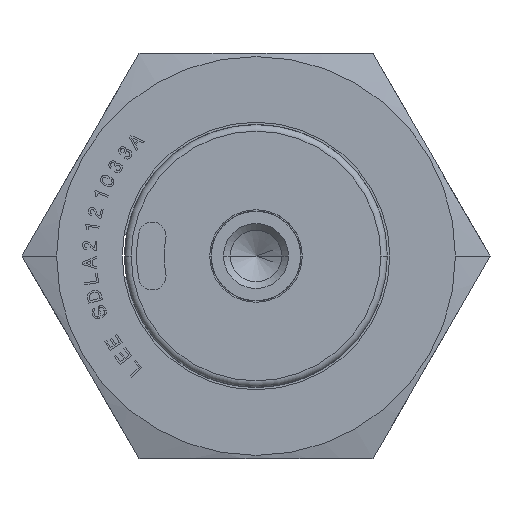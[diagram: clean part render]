
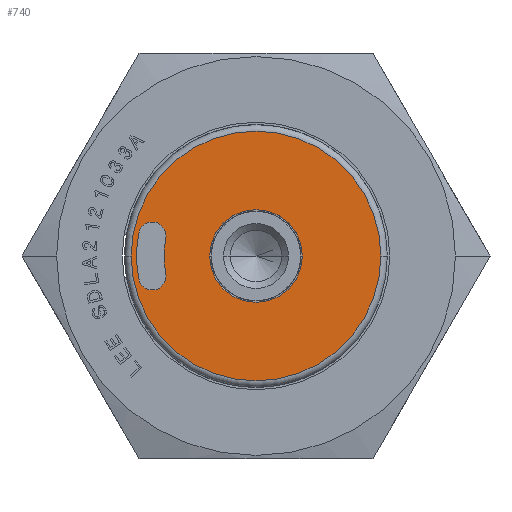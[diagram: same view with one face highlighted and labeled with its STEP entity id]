
A CAD part, left-side view. The second image highlights one B-rep face of the part: STEP entity #740.
In plain terms, the highlighted planar face has unit normal (-1, 0, 0).
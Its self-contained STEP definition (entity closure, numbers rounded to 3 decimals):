
#10=CARTESIAN_POINT('',(-29.261,6.701,0.));
#20=DIRECTION('',(1.,0.,0.));
#30=DIRECTION('',(0.,-1.,0.));
#40=AXIS2_PLACEMENT_3D('',#10,#20,#30);
#50=PLANE('',#40);
#60=CARTESIAN_POINT('',(-29.261,0.,0.));
#70=DIRECTION('',(1.,0.,0.));
#80=DIRECTION('',(0.,1.,0.));
#90=AXIS2_PLACEMENT_3D('',#60,#70,#80);
#100=CIRCLE('',#90,3.623);
#110=CARTESIAN_POINT('',(-29.261,3.623,0.));
#120=VERTEX_POINT('',#110);
#130=CARTESIAN_POINT('',(-29.261,-3.623,
0.));
#140=VERTEX_POINT('',#130);
#150=EDGE_CURVE('',#120,#140,#100,.T.);
#160=ORIENTED_EDGE('',*,*,#150,.T.);
#170=EDGE_CURVE('',#140,#120,#100,.T.);
#180=ORIENTED_EDGE('',*,*,#170,.T.);
#190=EDGE_LOOP('',(#180,#160));
#200=FACE_BOUND('',#190,.T.);
#210=CARTESIAN_POINT('',(-29.261,0.,0.));
#220=DIRECTION('',(-1.,0.,0.));
#230=DIRECTION('',(0.,0.,1.));
#240=AXIS2_PLACEMENT_3D('',#210,#220,#230);
#250=CIRCLE('',#240,7.201);
#260=CARTESIAN_POINT('',(-29.261,7.069,1.374));
#270=VERTEX_POINT('',#260);
#280=CARTESIAN_POINT('',(-29.261,7.069,-1.374));
#290=VERTEX_POINT('',#280);
#300=EDGE_CURVE('',#270,#290,#250,.T.);
#310=ORIENTED_EDGE('',*,*,#300,.T.);
#320=CARTESIAN_POINT('',(-29.261,8.128,1.58));
#330=DIRECTION('',(-1.,0.,0.));
#340=DIRECTION('',(0.,0.,1.));
#350=AXIS2_PLACEMENT_3D('',#320,#330,#340);
#360=CIRCLE('',#350,1.08);
#370=CARTESIAN_POINT('',(-29.261,9.188,1.787));
#380=VERTEX_POINT('',#370);
#390=EDGE_CURVE('',#270,#380,#360,.T.);
#400=ORIENTED_EDGE('',*,*,#390,.F.);
#410=CARTESIAN_POINT('',(-29.261,0.,0.));
#420=DIRECTION('',(-1.,0.,0.));
#430=DIRECTION('',(0.,0.,1.));
#440=AXIS2_PLACEMENT_3D('',#410,#420,#430);
#450=CIRCLE('',#440,9.36);
#460=CARTESIAN_POINT('',(-29.261,9.188,-1.787));
#470=VERTEX_POINT('',#460);
#480=EDGE_CURVE('',#380,#470,#450,.T.);
#490=ORIENTED_EDGE('',*,*,#480,.F.);
#500=CARTESIAN_POINT('',(-29.261,8.128,-1.583));
#510=DIRECTION('',(-1.,0.,0.));
#520=DIRECTION('',(0.,0.,1.));
#530=AXIS2_PLACEMENT_3D('',#500,#510,#520);
#540=CIRCLE('',#530,1.08);
#550=EDGE_CURVE('',#470,#290,#540,.T.);
#560=ORIENTED_EDGE('',*,*,#550,.F.);
#570=EDGE_LOOP('',(#560,#490,#400,#310));
#580=FACE_BOUND('',#570,.T.);
#590=CARTESIAN_POINT('',(-29.261,0.,0.));
#600=DIRECTION('',(1.,0.,0.));
#610=DIRECTION('',(0.,1.,0.));
#620=AXIS2_PLACEMENT_3D('',#590,#600,#610);
#630=CIRCLE('',#620,9.779);
#640=CARTESIAN_POINT('',(-29.261,9.779,0.));
#650=VERTEX_POINT('',#640);
#660=CARTESIAN_POINT('',(-29.261,-9.779,0.));
#670=VERTEX_POINT('',#660);
#680=EDGE_CURVE('',#650,#670,#630,.T.);
#690=ORIENTED_EDGE('',*,*,#680,.F.);
#700=EDGE_CURVE('',#670,#650,#630,.T.);
#710=ORIENTED_EDGE('',*,*,#700,.F.);
#720=EDGE_LOOP('',(#710,#690));
#730=FACE_OUTER_BOUND('',#720,.T.);
#740=ADVANCED_FACE('',(#200,#580,#730),#50,.F.);
